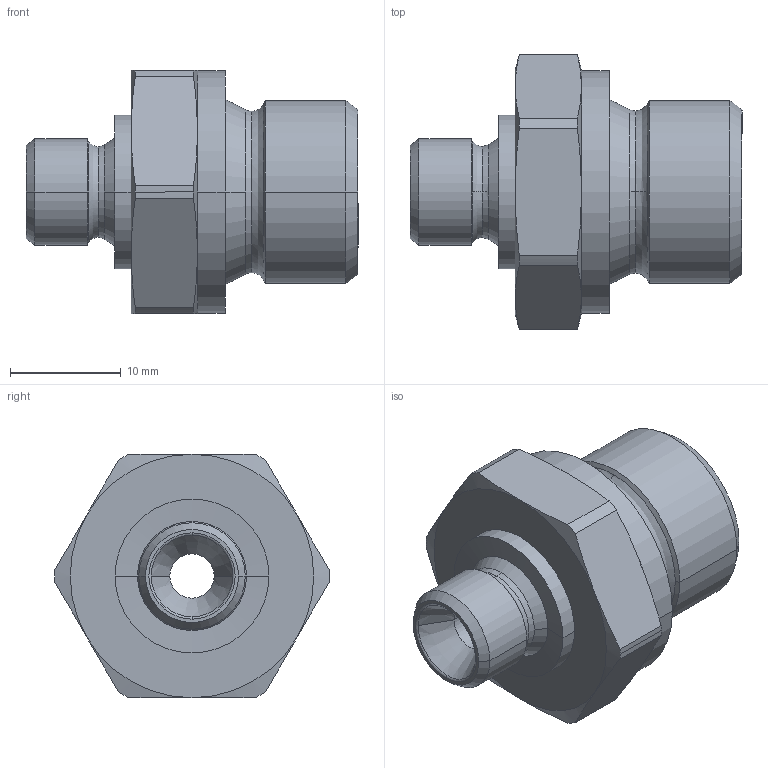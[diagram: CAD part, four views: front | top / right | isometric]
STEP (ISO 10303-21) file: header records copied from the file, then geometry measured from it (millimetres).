
FILE_DESCRIPTION((''),'2;1');
FILE_NAME('300503.stp','2006-09-11T08:08:27',(''),(''),'AutoCAD STEP 2000i','AutoCAD 2000i',', , ');
FILE_SCHEMA(('CONFIG_CONTROL_DESIGN'));
Length unit declared in the file: millimetre
Products named in the file (2): 300503.0; CHIAVE SMUSSATA#0
Assembly tree (1 placements, depth 2):
  300503.0
    CHIAVE SMUSSATA#0
Bounding box: 30 x 24.8 x 22 mm (x, y, z)
Volume: 5316.8 mm3; surface area: 2880.7 mm2
Topology: 1 solids, 1 shells, 76 faces, 178 edges, 106 vertices
Faces by surface type: cone 34, cylinder 20, plane 10, bspline 8, torus 4
Entity records: 2593 total; most frequent: CARTESIAN_POINT 762, DIRECTION 400, ORIENTED_EDGE 356, EDGE_CURVE 178, AXIS2_PLACEMENT_3D 176, VERTEX_POINT 106, CIRCLE 106, EDGE_LOOP 80
